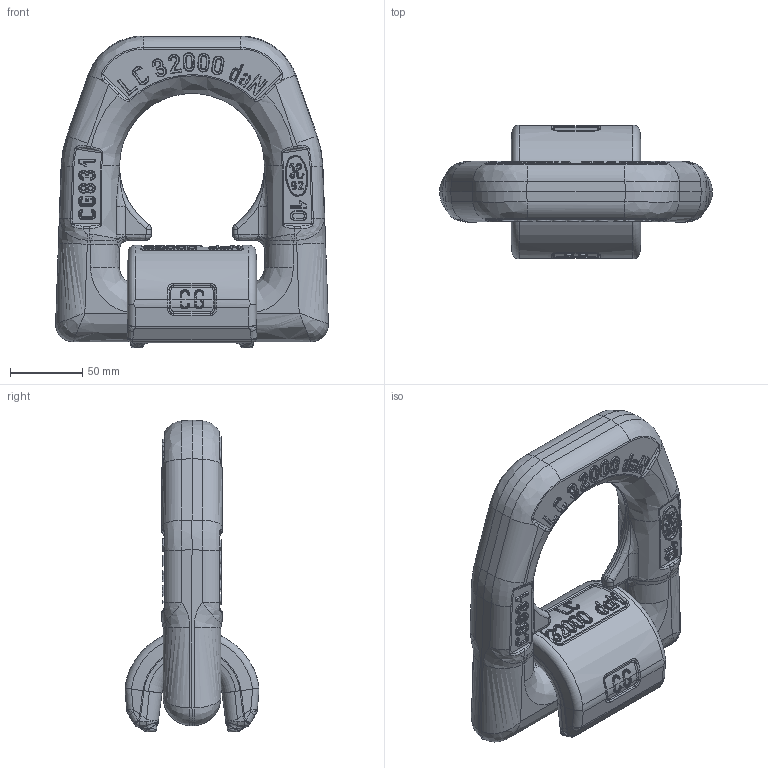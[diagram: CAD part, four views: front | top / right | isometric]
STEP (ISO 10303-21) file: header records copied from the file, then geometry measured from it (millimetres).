
FILE_DESCRIPTION(/* description */ (''),/* implementation_level */ '2;1');
FILE_NAME(/* name */ 'C831X32.stp',/* time_stamp */ '2013-06-05T16:22:34+02:00',/* author */ (''),/* organization */ (''),/* preprocessor_version */ 'ST-DEVELOPER v11',/* originating_system */ 'SIEMENS PLM Software NX 7.5',/* authorisation */ '');
FILE_SCHEMA (('CONFIG_CONTROL_DESIGN'));
Products named in the file (1): ugii64F4wpeq
Bounding box: 189.14 x 92.9 x 216.11 mm (x, y, z)
Volume: 1104007.5 mm3; surface area: 118027.7 mm2
Topology: 2 solids, 2 shells, 2292 faces, 5377 edges, 3154 vertices
Faces by surface type: bspline 1551, plane 509, cylinder 142, torus 72, sphere 8, cone 6, extrusion 4
Entity records: 126269 total; most frequent: CARTESIAN_POINT 87830, ORIENTED_EDGE 10730, EDGE_CURVE 5365, B_SPLINE_CURVE_WITH_KNOTS 4411, VERTEX_POINT 3150, DIRECTION 2991, EDGE_LOOP 2367, ADVANCED_FACE 2292
